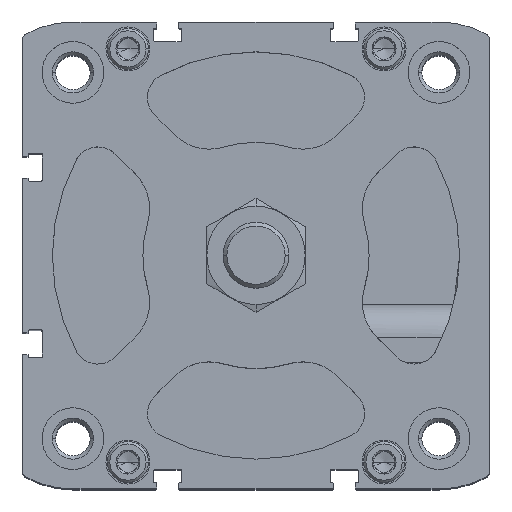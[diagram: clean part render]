
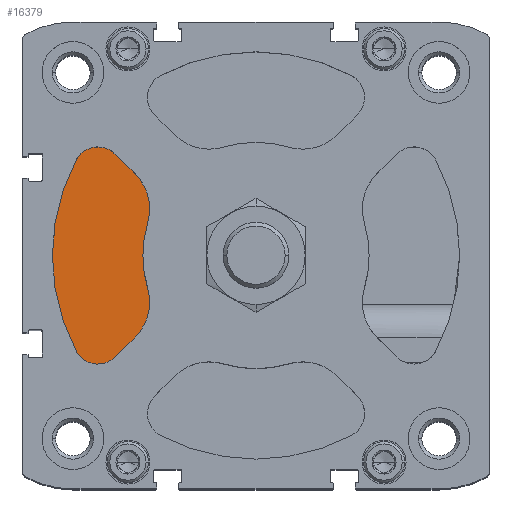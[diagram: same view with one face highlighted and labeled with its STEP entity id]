
A CAD part, top view. The second image highlights one B-rep face of the part: STEP entity #16379.
In plain terms, the highlighted planar face has unit normal (0, 0, 1).
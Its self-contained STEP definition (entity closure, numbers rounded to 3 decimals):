
#761 = DIRECTION ( 'NONE',  ( 0., 0., 1. ) ) ;
#1005 = CARTESIAN_POINT ( 'NONE',  ( -37.842, 11.325, -18.8 ) ) ;
#1234 = DIRECTION ( 'NONE',  ( 0., 1., 0. ) ) ;
#1467 = CARTESIAN_POINT ( 'NONE',  ( -34.181, -24.635, -18.8 ) ) ;
#1606 = VECTOR ( 'NONE', #3173, 1000. ) ;
#2006 = AXIS2_PLACEMENT_3D ( 'NONE', #2387, #7583, #18416 ) ;
#2387 = CARTESIAN_POINT ( 'NONE',  ( 0., 0., -18.8 ) ) ;
#2397 = CARTESIAN_POINT ( 'NONE',  ( -38.424, 20.393, -18.8 ) ) ;
#2485 = ORIENTED_EDGE ( 'NONE', *, *, #18982, .F. ) ;
#2722 = EDGE_CURVE ( 'NONE', #2880, #20816, #21371, .T. ) ;
#2880 = VERTEX_POINT ( 'NONE', #11654 ) ;
#3108 = ORIENTED_EDGE ( 'NONE', *, *, #4437, .T. ) ;
#3173 = DIRECTION ( 'NONE',  ( 0.707, 0.707, 0. ) ) ;
#3369 = CARTESIAN_POINT ( 'NONE',  ( 0., 0., -18.8 ) ) ;
#3567 = EDGE_CURVE ( 'NONE', #5632, #19191, #12877, .T. ) ;
#3739 = AXIS2_PLACEMENT_3D ( 'NONE', #2397, #7590, #21617 ) ;
#3745 = EDGE_CURVE ( 'NONE', #3896, #2880, #22371, .T. ) ;
#3893 = EDGE_CURVE ( 'NONE', #20816, #5632, #16530, .T. ) ;
#3896 = VERTEX_POINT ( 'NONE', #6067 ) ;
#4437 = EDGE_CURVE ( 'NONE', #12460, #6944, #9914, .T. ) ;
#4511 = EDGE_LOOP ( 'NONE', ( #17004, #14787, #3108, #8831, #2485, #15922, #10367, #19038, #16444 ) ) ;
#4878 = DIRECTION ( 'NONE',  ( 0., 0., 1. ) ) ;
#4898 = CARTESIAN_POINT ( 'NONE',  ( -34.181, -24.635, -18.8 ) ) ;
#5322 = CIRCLE ( 'NONE', #2006, 27.5 ) ;
#5347 = VERTEX_POINT ( 'NONE', #15292 ) ;
#5405 = DIRECTION ( 'NONE',  ( 0., 0., 1. ) ) ;
#5578 = AXIS2_PLACEMENT_3D ( 'NONE', #1005, #761, #1234 ) ;
#5632 = VERTEX_POINT ( 'NONE', #10120 ) ;
#5873 = CARTESIAN_POINT ( 'NONE',  ( -29.356, -19.81, -18.8 ) ) ;
#6062 = CARTESIAN_POINT ( 'NONE',  ( -29.356, 19.81, -18.8 ) ) ;
#6067 = CARTESIAN_POINT ( 'NONE',  ( -26.345, 7.885, -18.8 ) ) ;
#6251 = AXIS2_PLACEMENT_3D ( 'NONE', #14071, #17733, #15677 ) ;
#6891 = CARTESIAN_POINT ( 'NONE',  ( -43.724, 23.205, -18.8 ) ) ;
#6944 = VERTEX_POINT ( 'NONE', #5873 ) ;
#7408 = AXIS2_PLACEMENT_3D ( 'NONE', #17505, #5405, #17735 ) ;
#7583 = DIRECTION ( 'NONE',  ( 0., 0., 1. ) ) ;
#7590 = DIRECTION ( 'NONE',  ( 0., 0., 1. ) ) ;
#8454 = EDGE_CURVE ( 'NONE', #12102, #12460, #13548, .T. ) ;
#8614 = CARTESIAN_POINT ( 'NONE',  ( -43.724, -23.205, -18.8 ) ) ;
#8831 = ORIENTED_EDGE ( 'NONE', *, *, #16857, .T. ) ;
#9914 = LINE ( 'NONE', #4898, #1606 ) ;
#10120 = CARTESIAN_POINT ( 'NONE',  ( -38.424, 26.393, -18.8 ) ) ;
#10219 = EDGE_CURVE ( 'NONE', #19191, #12102, #11835, .T. ) ;
#10367 = ORIENTED_EDGE ( 'NONE', *, *, #2722, .T. ) ;
#10647 = AXIS2_PLACEMENT_3D ( 'NONE', #3369, #4878, #11841 ) ;
#10730 = AXIS2_PLACEMENT_3D ( 'NONE', #18159, #16554, #13023 ) ;
#10959 = CARTESIAN_POINT ( 'NONE',  ( -38.424, 20.393, -18.8 ) ) ;
#11194 = DIRECTION ( 'NONE',  ( 0., 1., 0. ) ) ;
#11654 = CARTESIAN_POINT ( 'NONE',  ( -29.356, 19.81, -18.8 ) ) ;
#11725 = FACE_OUTER_BOUND ( 'NONE', #4511, .T. ) ;
#11835 = CIRCLE ( 'NONE', #10730, 49.5 ) ;
#11841 = DIRECTION ( 'NONE',  ( 1., 0., 0. ) ) ;
#12102 = VERTEX_POINT ( 'NONE', #8614 ) ;
#12460 = VERTEX_POINT ( 'NONE', #1467 ) ;
#12877 = CIRCLE ( 'NONE', #3739, 6. ) ;
#13023 = DIRECTION ( 'NONE',  ( 0., 1., 0. ) ) ;
#13320 = VECTOR ( 'NONE', #16333, 1000. ) ;
#13548 = CIRCLE ( 'NONE', #6251, 6. ) ;
#13878 = PLANE ( 'NONE',  #10647 ) ;
#14071 = CARTESIAN_POINT ( 'NONE',  ( -38.424, -20.393, -18.8 ) ) ;
#14787 = ORIENTED_EDGE ( 'NONE', *, *, #8454, .T. ) ;
#15292 = CARTESIAN_POINT ( 'NONE',  ( -26.345, -7.885, -18.8 ) ) ;
#15427 = CIRCLE ( 'NONE', #7408, 12. ) ;
#15677 = DIRECTION ( 'NONE',  ( 0., 1., 0. ) ) ;
#15922 = ORIENTED_EDGE ( 'NONE', *, *, #3745, .T. ) ;
#16333 = DIRECTION ( 'NONE',  ( -0.707, 0.707, 0. ) ) ;
#16379 = ADVANCED_FACE ( 'NONE', ( #11725 ), #13878, .T. ) ;
#16444 = ORIENTED_EDGE ( 'NONE', *, *, #3567, .T. ) ;
#16530 = CIRCLE ( 'NONE', #20196, 6. ) ;
#16554 = DIRECTION ( 'NONE',  ( 0., 0., 1. ) ) ;
#16857 = EDGE_CURVE ( 'NONE', #6944, #5347, #15427, .T. ) ;
#17004 = ORIENTED_EDGE ( 'NONE', *, *, #10219, .T. ) ;
#17505 = CARTESIAN_POINT ( 'NONE',  ( -37.842, -11.325, -18.8 ) ) ;
#17733 = DIRECTION ( 'NONE',  ( 0., 0., 1. ) ) ;
#17735 = DIRECTION ( 'NONE',  ( 0., 1., 0. ) ) ;
#18159 = CARTESIAN_POINT ( 'NONE',  ( 0., 0., -18.8 ) ) ;
#18416 = DIRECTION ( 'NONE',  ( 0., 1., 0. ) ) ;
#18982 = EDGE_CURVE ( 'NONE', #3896, #5347, #5322, .T. ) ;
#19038 = ORIENTED_EDGE ( 'NONE', *, *, #3893, .T. ) ;
#19191 = VERTEX_POINT ( 'NONE', #6891 ) ;
#20196 = AXIS2_PLACEMENT_3D ( 'NONE', #10959, #21378, #11194 ) ;
#20341 = CARTESIAN_POINT ( 'NONE',  ( -34.181, 24.635, -18.8 ) ) ;
#20816 = VERTEX_POINT ( 'NONE', #20341 ) ;
#21371 = LINE ( 'NONE', #6062, #13320 ) ;
#21378 = DIRECTION ( 'NONE',  ( 0., 0., 1. ) ) ;
#21617 = DIRECTION ( 'NONE',  ( 0., 1., 0. ) ) ;
#22371 = CIRCLE ( 'NONE', #5578, 12. ) ;
